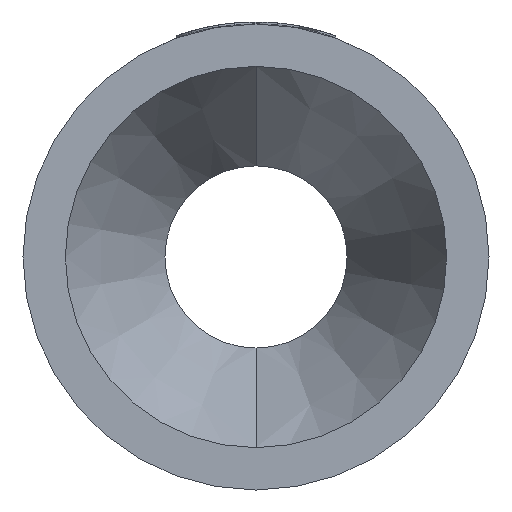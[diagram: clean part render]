
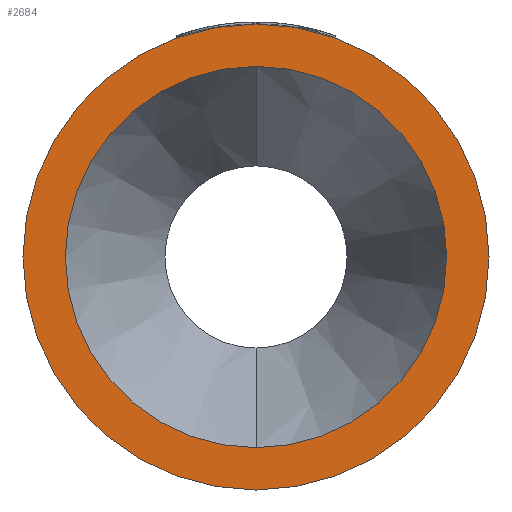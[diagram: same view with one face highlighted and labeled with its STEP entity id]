
A CAD part, left-side view. The second image highlights one B-rep face of the part: STEP entity #2684.
In plain terms, the highlighted planar face has unit normal (-1, 0, 0).
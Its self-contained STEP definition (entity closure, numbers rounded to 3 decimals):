
#18 = DIRECTION ( 'NONE',  ( 0., 0., 1. ) ) ;
#25 = DIRECTION ( 'NONE',  ( -1., 0., 0. ) ) ;
#27 = CARTESIAN_POINT ( 'NONE',  ( 0., 0., 0. ) ) ;
#74 = AXIS2_PLACEMENT_3D ( 'NONE', #27, #25, #18 ) ;
#376 = CARTESIAN_POINT ( 'NONE',  ( 0., 0., 55. ) ) ;
#471 = CARTESIAN_POINT ( 'NONE',  ( 0., 0., -55. ) ) ;
#750 = AXIS2_PLACEMENT_3D ( 'NONE', #2709, #2699, #2693 ) ;
#791 = CIRCLE ( 'NONE', #750, 55. ) ;
#911 = CARTESIAN_POINT ( 'NONE',  ( 0., 0., -45. ) ) ;
#919 = AXIS2_PLACEMENT_3D ( 'NONE', #3371, #3361, #2022 ) ;
#973 = CIRCLE ( 'NONE', #3359, 55. ) ;
#1084 = CARTESIAN_POINT ( 'NONE',  ( 0., 0., 45. ) ) ;
#1116 = DIRECTION ( 'NONE',  ( 1., 0., 0. ) ) ;
#1178 = VERTEX_POINT ( 'NONE', #471 ) ;
#1197 = DIRECTION ( 'NONE',  ( 0., 0., -1. ) ) ;
#1323 = EDGE_CURVE ( 'NONE', #2388, #2336, #1547, .T. ) ;
#1329 = CARTESIAN_POINT ( 'NONE',  ( 0., 45., 0. ) ) ;
#1394 = FACE_BOUND ( 'NONE', #2377, .T. ) ;
#1483 = PLANE ( 'NONE',  #3222 ) ;
#1547 = CIRCLE ( 'NONE', #919, 45. ) ;
#1729 = ORIENTED_EDGE ( 'NONE', *, *, #2663, .F. ) ;
#1745 = ORIENTED_EDGE ( 'NONE', *, *, #1323, .F. ) ;
#1814 = ORIENTED_EDGE ( 'NONE', *, *, #1841, .T. ) ;
#1821 = ORIENTED_EDGE ( 'NONE', *, *, #2670, .T. ) ;
#1841 = EDGE_CURVE ( 'NONE', #2586, #1178, #791, .T. ) ;
#1872 = DIRECTION ( 'NONE',  ( 0., 0., 1. ) ) ;
#1926 = CARTESIAN_POINT ( 'NONE',  ( 0., 0., 0. ) ) ;
#2022 = DIRECTION ( 'NONE',  ( 0., 0., 1. ) ) ;
#2209 = DIRECTION ( 'NONE',  ( -1., 0., 0. ) ) ;
#2263 = FACE_OUTER_BOUND ( 'NONE', #2705, .T. ) ;
#2336 = VERTEX_POINT ( 'NONE', #1084 ) ;
#2377 = EDGE_LOOP ( 'NONE', ( #1729, #1745 ) ) ;
#2388 = VERTEX_POINT ( 'NONE', #911 ) ;
#2503 = CIRCLE ( 'NONE', #74, 45. ) ;
#2586 = VERTEX_POINT ( 'NONE', #376 ) ;
#2663 = EDGE_CURVE ( 'NONE', #2336, #2388, #2503, .T. ) ;
#2670 = EDGE_CURVE ( 'NONE', #1178, #2586, #973, .T. ) ;
#2684 = ADVANCED_FACE ( 'NONE', ( #1394, #2263 ), #1483, .F. ) ;
#2693 = DIRECTION ( 'NONE',  ( 0., 0., 1. ) ) ;
#2699 = DIRECTION ( 'NONE',  ( -1., 0., 0. ) ) ;
#2705 = EDGE_LOOP ( 'NONE', ( #1814, #1821 ) ) ;
#2709 = CARTESIAN_POINT ( 'NONE',  ( 0., 0., 0. ) ) ;
#3222 = AXIS2_PLACEMENT_3D ( 'NONE', #1329, #1116, #1197 ) ;
#3359 = AXIS2_PLACEMENT_3D ( 'NONE', #1926, #2209, #1872 ) ;
#3361 = DIRECTION ( 'NONE',  ( -1., 0., 0. ) ) ;
#3371 = CARTESIAN_POINT ( 'NONE',  ( 0., 0., 0. ) ) ;
